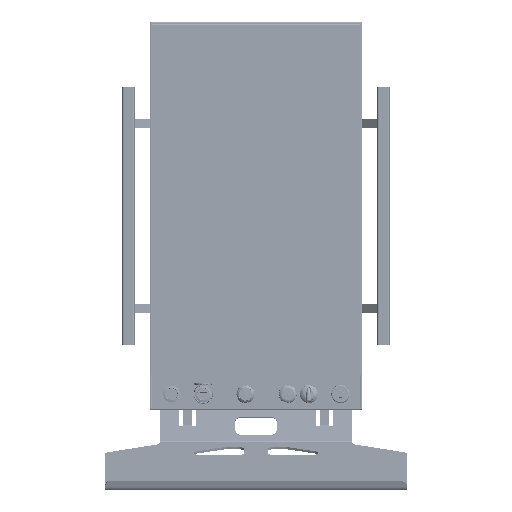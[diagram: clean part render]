
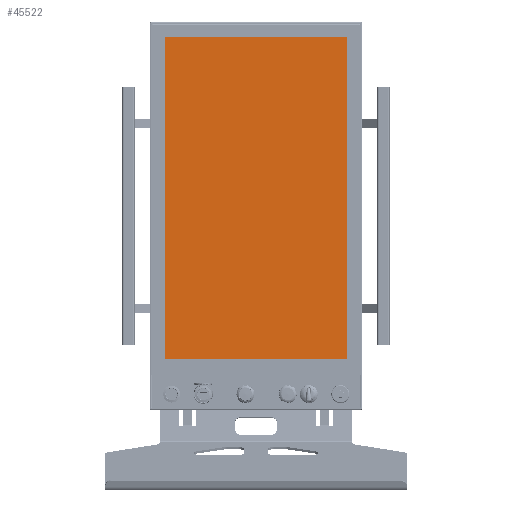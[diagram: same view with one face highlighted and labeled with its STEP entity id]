
A CAD part, top view. The second image highlights one B-rep face of the part: STEP entity #45522.
In plain terms, the highlighted planar face has unit normal (0, 0, 1) as drawn and (0, 1, 0) by its records, which use the part's own axes.
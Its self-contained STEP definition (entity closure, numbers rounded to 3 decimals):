
#13537 = DIRECTION ( 'NONE',  ( -1., 0., 0. ) ) ;
#22667 = AXIS2_PLACEMENT_3D ( 'NONE', #68332, #213118, #284196 ) ;
#25688 = PLANE ( 'NONE',  #22667 ) ;
#27811 = EDGE_LOOP ( 'NONE', ( #393934, #281161, #318638, #204701 ) ) ;
#45522 = ADVANCED_FACE ( 'NONE', ( #70616 ), #25688, .T. ) ;
#55570 = VECTOR ( 'NONE', #224080, 1000. ) ;
#64521 = CARTESIAN_POINT ( 'NONE',  ( 266.88, 2.7, 150.645 ) ) ;
#68332 = CARTESIAN_POINT ( 'NONE',  ( 0., 2.7, 0. ) ) ;
#70616 = FACE_OUTER_BOUND ( 'NONE', #27811, .T. ) ;
#100700 = EDGE_CURVE ( 'NONE', #444798, #259391, #259656, .T. ) ;
#129106 = CARTESIAN_POINT ( 'NONE',  ( -266.88, 2.7, 150.645 ) ) ;
#131108 = LINE ( 'NONE', #64521, #220894 ) ;
#158416 = EDGE_CURVE ( 'NONE', #440974, #444798, #262613, .T. ) ;
#188438 = CARTESIAN_POINT ( 'NONE',  ( -266.88, 2.7, -150.645 ) ) ;
#204701 = ORIENTED_EDGE ( 'NONE', *, *, #399233, .T. ) ;
#207731 = VERTEX_POINT ( 'NONE', #237283 ) ;
#213118 = DIRECTION ( 'NONE',  ( 0., 1., 0. ) ) ;
#220894 = VECTOR ( 'NONE', #278128, 1000. ) ;
#224080 = DIRECTION ( 'NONE',  ( 0., 0., 1. ) ) ;
#237283 = CARTESIAN_POINT ( 'NONE',  ( 266.88, 2.7, 150.645 ) ) ;
#259391 = VERTEX_POINT ( 'NONE', #129106 ) ;
#259656 = LINE ( 'NONE', #188438, #55570 ) ;
#262613 = LINE ( 'NONE', #407491, #425973 ) ;
#278128 = DIRECTION ( 'NONE',  ( 0., 0., -1. ) ) ;
#281161 = ORIENTED_EDGE ( 'NONE', *, *, #100700, .T. ) ;
#284196 = DIRECTION ( 'NONE',  ( 0., 0., 1. ) ) ;
#313380 = LINE ( 'NONE', #387080, #414457 ) ;
#314459 = CARTESIAN_POINT ( 'NONE',  ( 266.88, 2.7, -150.645 ) ) ;
#318084 = DIRECTION ( 'NONE',  ( 1., 0., 0. ) ) ;
#318638 = ORIENTED_EDGE ( 'NONE', *, *, #384852, .T. ) ;
#327589 = CARTESIAN_POINT ( 'NONE',  ( -266.88, 2.7, -150.645 ) ) ;
#384852 = EDGE_CURVE ( 'NONE', #259391, #207731, #313380, .T. ) ;
#387080 = CARTESIAN_POINT ( 'NONE',  ( -266.88, 2.7, 150.645 ) ) ;
#393934 = ORIENTED_EDGE ( 'NONE', *, *, #158416, .T. ) ;
#399233 = EDGE_CURVE ( 'NONE', #207731, #440974, #131108, .T. ) ;
#407491 = CARTESIAN_POINT ( 'NONE',  ( 266.88, 2.7, -150.645 ) ) ;
#414457 = VECTOR ( 'NONE', #318084, 1000. ) ;
#425973 = VECTOR ( 'NONE', #13537, 1000. ) ;
#440974 = VERTEX_POINT ( 'NONE', #314459 ) ;
#444798 = VERTEX_POINT ( 'NONE', #327589 ) ;
